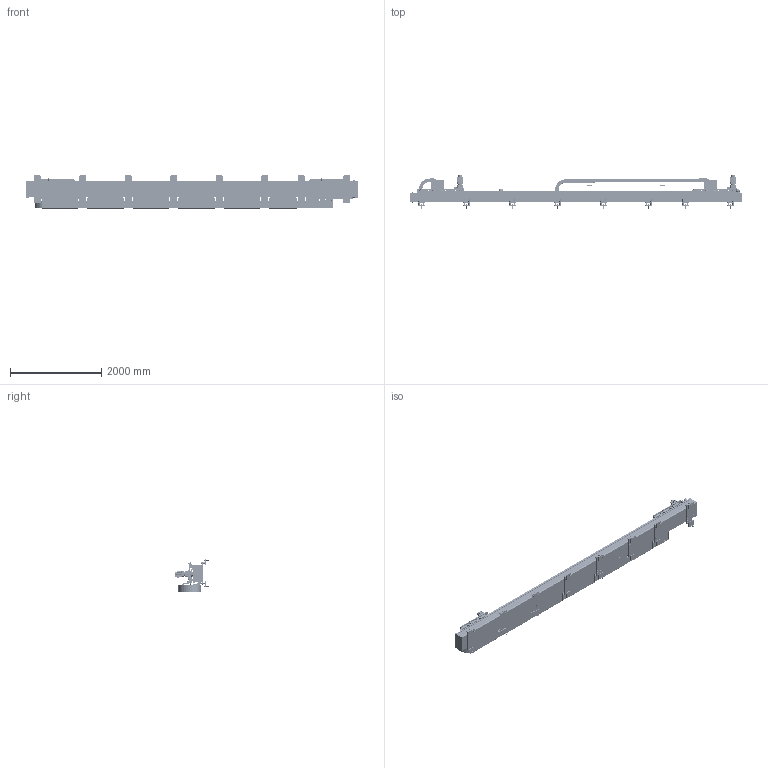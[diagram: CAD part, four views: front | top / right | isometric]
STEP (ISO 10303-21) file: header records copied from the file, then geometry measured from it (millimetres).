
FILE_DESCRIPTION (( 'STEP AP214' ), '1' );
FILE_NAME ('306545-600-1(TM2060_6000TR).STEP', '2024-05-13T08:08:01', ( '' ), ( '' ), 'SwSTEP 2.0', 'SolidWorks 2021', '' );
FILE_SCHEMA (( 'AUTOMOTIVE_DESIGN' ));
Length unit declared in the file: millimetre
Products named in the file (104): SRFD2.5-1000; LF-C(THK); Cap Screw_M5X10_M5-12; SW20; SHS45LV(グリスニップル・集中給油)_継手(LF-C)L側; 306535-118-0(ケーブルレール(600L) Assy); AB-4N(ナイロンクリップ); 302935-102-0(近接ブラケット); EYE_BOLT(M24); 306535-120-0(制音シート)_600L; TKC64H50W110R200-102L(306545-600-0)_6000TR; 306535-122-0(補強ブラケット); NUT(M8)_type2; MDMF202L1C6; Cap Screw_M10X25_M10-25; 306535-117-0(固定端ブラケット Assy); Cap Screw_M12X75_M12-80; 306545-112-0(エンドカバー); ｺﾝﾌﾟﾚｯｼｮンｽﾘｰﾌﾞ(106254); hexa bolt M8-50; 306535-119-0(ケーブルレール(800L)); L-(1-8); 305795-115-0(ラックスペーサ(B)); Cap Screw_M6X30_M6-30; RWS22; TKC0640-IU_W110; 306545-106-0(ギヤプレート); 306545-611-0(走行フレーム(6000TR)); Cap Screw(SW,W)_M8X25_M8-25; 306535-121-0(制音シート)_800L; SHS45LV(グリスニップル・集中給油)_継手(LF-C)L側 N(1-8)-75L L(1-8)逆; W20; Cap Screw(SW_W)_M4X10_M4-10; 306535-125-0(ブラケットスペーサ); LKC（クレードル）; VRXF-9E-K-28HA22; NutM20(SW_W)ASSY; SHS45LV(グリスニップル・集中給油)_継手(LF-C)L側 N(1-8)-75L L(1-8); 306535-111-0(傾僕儍僗僞 Assy)_愝抲崅偝63mm_昳徹庴晅噦300502; 306535-119-0(ケーブルレール(800L) Assy)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
Assembly tree (553 placements, depth 4):
  306545-600-1(TM2060_6000TR)
    306545-611-0(走行フレーム(6000TR))
    306545-100-0-1_可動部 Assy_奥側  x2
      306545-102-1(スライドベース)
      303156-106-0(位置決めﾋﾟﾝ)
      306545-100-0_モータ Assy
        303825-109-1(モータブラケット)
        VRXF-9E-K-28HA22
        MDMF202L1C6
        306545-105-0(ピニオンギア)
        306545-106-0(ギヤプレート)
        Cap Screw_M8X25_M8-25  x4
        Cap Screw_M10X25_M10-25  x4
        M5-5(SET(ギザ先))  x2
        Cap Screw_M10X20_M10-20
      306055-103-0(LMガイドストッパ)_Ｌ型（4点止め）
      302935-102-0(近接ブラケット)
      SHS45LV(グリスニップル・集中給油)_継手(LF-C)R側
        SHS45LV_集中給油ベース
        LF-C(THK)
        PD4
        ｺﾝﾌﾟﾚｯｼｮンﾌﾞｯｼﾝｸﾞ(106253)
        ｺﾝﾌﾟﾚｯｼｮンｽﾘｰﾌﾞ(106254)
        僫僀儘儞僠儏僂僽(冇4x冇2.5)
      SHS45LV(グリスニップル・集中給油)_継手(LF-C)L側 N(1-8)-75L L(1-8)逆
        SHS45LV_集中給油ベース
        LF-C(THK)
        PD4
        ｺﾝﾌﾟﾚｯｼｮンﾌﾞｯｼﾝｸﾞ(106253)
        ｺﾝﾌﾟﾚｯｼｮンｽﾘｰﾌﾞ(106254)
        僫僀儘儞僠儏僂僽(冇4x冇2.5)
        LongN-(1-8)-75L
        L-(1-8)
      SHS45LV(グリスニップル・集中給油)_継手(LF-C)L側
        SHS45LV_集中給油ベース
        LF-C(THK)
        PD4
        ｺﾝﾌﾟﾚｯｼｮンﾌﾞｯｼﾝｸﾞ(106253)
        ｺﾝﾌﾟﾚｯｼｮンｽﾘｰﾌﾞ(106254)
        僫僀儘儞僠儏僂僽(冇4x冇2.5)
      SHS45LV(グリスニップル・集中給油)_継手(LF-C)L側 N(1-8)-75L L(1-8)
        SHS45LV_集中給油ベース
        LF-C(THK)
        PD4
        ｺﾝﾌﾟﾚｯｼｮンﾌﾞｯｼﾝｸﾞ(106253)
        ｺﾝﾌﾟﾚｯｼｮンｽﾘｰﾌﾞ(106254)
        僫僀儘儞僠儏僂僽(冇4x冇2.5)
        LongN-(1-8)-75L
        L-(1-8)
      NUT(M8)_type2
      TL-Q5MC(配線有・横)
      ｽﾄﾚｰﾄｱﾀﾞﾌﾟﾀ(106001)_L=18
      ｴﾙﾎﾞｱﾀﾞﾌﾟﾀ(106029)_デフォルト
      ｺﾝﾌﾟﾚｯｼｮンﾌﾞｯｼﾝｸﾞ(106253)
      hexa bolt M8-50
      Cap Screw(SW_W)_M10X40_M10-40
      Cap Screw_M6X10_M6-10
      Cap Screw_M10X20_M10-20
      AB-4N(ナイロンクリップ)
      LKC（クレードル）
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Bounding box: 7296 x 731 x 732.5 mm (x, y, z)
Volume: 282829262.3 mm3; surface area: 58693364.6 mm2
Topology: 895 solids, 923 shells, 21113 faces, 49937 edges, 31039 vertices
Faces by surface type: plane 9699, cylinder 7978, cone 2284, bspline 1050, torus 86, sphere 16
Full cylindrical faces by diameter (mm): 102 x2
Entity records: 220742 total; most frequent: CARTESIAN_POINT 40669, DIRECTION 33734, ORIENTED_EDGE 29902, EDGE_CURVE 14964, AXIS2_PLACEMENT_3D 13177, VERTEX_POINT 9684, EDGE_LOOP 8191, LINE 7380
